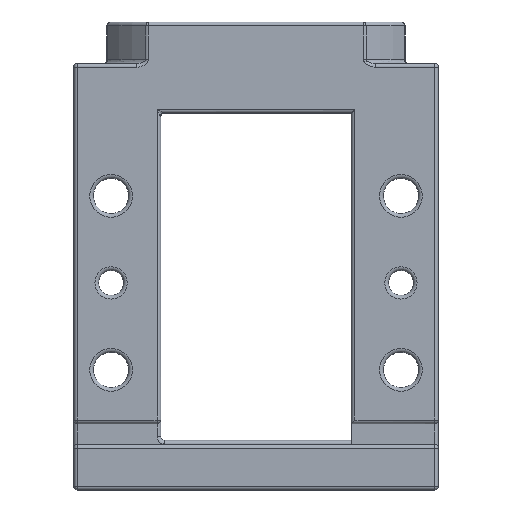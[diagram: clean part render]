
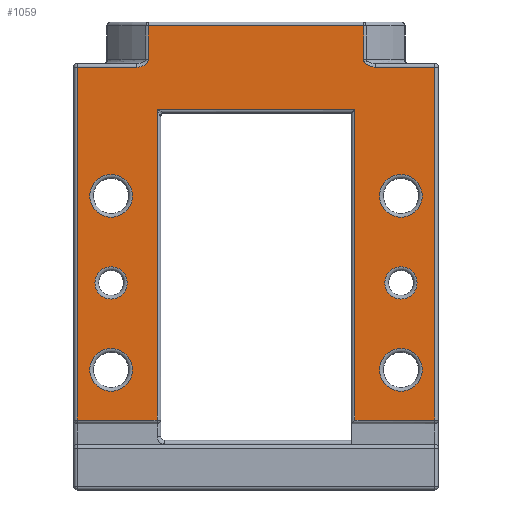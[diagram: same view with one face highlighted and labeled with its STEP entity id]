
A CAD part, front view. The second image highlights one B-rep face of the part: STEP entity #1059.
In plain terms, the highlighted planar face has unit normal (0, -1, 0).
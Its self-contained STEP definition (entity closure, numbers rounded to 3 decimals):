
#746=CIRCLE('',#6138,3.9);
#748=CIRCLE('',#6141,3.9);
#749=CIRCLE('',#6143,5.15);
#751=CIRCLE('',#6146,5.15);
#753=CIRCLE('',#6149,5.15);
#755=CIRCLE('',#6152,5.15);
#1059=ADVANCED_FACE('',(#2217,#2218,#2219,#2220,#2221,#2222,#2223),#1378,
 .F.);
#1378=PLANE('',#6256);
#1537=LINE('',#9258,#1821);
#1538=LINE('',#9276,#1822);
#1539=LINE('',#9278,#1823);
#1540=LINE('',#9280,#1824);
#1541=LINE('',#9282,#1825);
#1542=LINE('',#9284,#1826);
#1543=LINE('',#9286,#1827);
#1544=LINE('',#9288,#1828);
#1545=LINE('',#9290,#1829);
#1546=LINE('',#9292,#1830);
#1547=LINE('',#9307,#1831);
#1548=LINE('',#9309,#1832);
#1821=VECTOR('',#7070,1.);
#1822=VECTOR('',#7071,1.);
#1823=VECTOR('',#7072,1.);
#1824=VECTOR('',#7073,1.);
#1825=VECTOR('',#7074,1.);
#1826=VECTOR('',#7075,1.);
#1827=VECTOR('',#7076,1.);
#1828=VECTOR('',#7077,1.);
#1829=VECTOR('',#7078,1.);
#1830=VECTOR('',#7079,1.);
#1831=VECTOR('',#7080,1.);
#1832=VECTOR('',#7081,1.);
#2217=FACE_BOUND('',#2393,.T.);
#2218=FACE_BOUND('',#2394,.T.);
#2219=FACE_BOUND('',#2395,.T.);
#2220=FACE_BOUND('',#2396,.T.);
#2221=FACE_BOUND('',#2397,.T.);
#2222=FACE_BOUND('',#2398,.T.);
#2223=FACE_BOUND('',#2399,.T.);
#2393=EDGE_LOOP('',(#3049));
#2394=EDGE_LOOP('',(#3050));
#2395=EDGE_LOOP('',(#3051));
#2396=EDGE_LOOP('',(#3052));
#2397=EDGE_LOOP('',(#3053));
#2398=EDGE_LOOP('',(#3054));
#2399=EDGE_LOOP('',(#3055,#3056,#3057,#3058,#3059,#3060,#3061,#3062,#3063,
#3064,#3065,#3066,#3067,#3068));
#3049=ORIENTED_EDGE('',*,*,#5100,.T.);
#3050=ORIENTED_EDGE('',*,*,#5098,.T.);
#3051=ORIENTED_EDGE('',*,*,#5096,.T.);
#3052=ORIENTED_EDGE('',*,*,#5094,.T.);
#3053=ORIENTED_EDGE('',*,*,#5093,.T.);
#3054=ORIENTED_EDGE('',*,*,#5091,.T.);
#3055=ORIENTED_EDGE('',*,*,#5223,.T.);
#3056=ORIENTED_EDGE('',*,*,#5224,.T.);
#3057=ORIENTED_EDGE('',*,*,#5225,.T.);
#3058=ORIENTED_EDGE('',*,*,#5226,.T.);
#3059=ORIENTED_EDGE('',*,*,#5227,.T.);
#3060=ORIENTED_EDGE('',*,*,#5228,.T.);
#3061=ORIENTED_EDGE('',*,*,#5229,.T.);
#3062=ORIENTED_EDGE('',*,*,#5230,.T.);
#3063=ORIENTED_EDGE('',*,*,#5231,.T.);
#3064=ORIENTED_EDGE('',*,*,#5232,.T.);
#3065=ORIENTED_EDGE('',*,*,#5233,.T.);
#3066=ORIENTED_EDGE('',*,*,#5234,.T.);
#3067=ORIENTED_EDGE('',*,*,#5235,.T.);
#3068=ORIENTED_EDGE('',*,*,#5236,.T.);
#4551=VERTEX_POINT('',#8802);
#4553=VERTEX_POINT('',#8807);
#4554=VERTEX_POINT('',#8810);
#4556=VERTEX_POINT('',#8815);
#4558=VERTEX_POINT('',#8820);
#4560=VERTEX_POINT('',#8825);
#4678=VERTEX_POINT('',#9259);
#4679=VERTEX_POINT('',#9260);
#4680=VERTEX_POINT('',#9275);
#4681=VERTEX_POINT('',#9277);
#4682=VERTEX_POINT('',#9279);
#4683=VERTEX_POINT('',#9281);
#4684=VERTEX_POINT('',#9283);
#4685=VERTEX_POINT('',#9285);
#4686=VERTEX_POINT('',#9287);
#4687=VERTEX_POINT('',#9289);
#4688=VERTEX_POINT('',#9291);
#4689=VERTEX_POINT('',#9293);
#4690=VERTEX_POINT('',#9306);
#4691=VERTEX_POINT('',#9308);
#5091=EDGE_CURVE('',#4551,#4551,#746,.T.);
#5093=EDGE_CURVE('',#4553,#4553,#748,.T.);
#5094=EDGE_CURVE('',#4554,#4554,#749,.T.);
#5096=EDGE_CURVE('',#4556,#4556,#751,.T.);
#5098=EDGE_CURVE('',#4558,#4558,#753,.T.);
#5100=EDGE_CURVE('',#4560,#4560,#755,.T.);
#5223=EDGE_CURVE('',#4678,#4679,#1537,.T.);
#5224=EDGE_CURVE('',#4679,#4680,#5899,.T.);
#5225=EDGE_CURVE('',#4680,#4681,#1538,.T.);
#5226=EDGE_CURVE('',#4681,#4682,#1539,.T.);
#5227=EDGE_CURVE('',#4682,#4683,#1540,.T.);
#5228=EDGE_CURVE('',#4683,#4684,#1541,.T.);
#5229=EDGE_CURVE('',#4684,#4685,#1542,.T.);
#5230=EDGE_CURVE('',#4685,#4686,#1543,.T.);
#5231=EDGE_CURVE('',#4686,#4687,#1544,.T.);
#5232=EDGE_CURVE('',#4687,#4688,#1545,.T.);
#5233=EDGE_CURVE('',#4688,#4689,#1546,.T.);
#5234=EDGE_CURVE('',#4689,#4690,#5900,.T.);
#5235=EDGE_CURVE('',#4690,#4691,#1547,.T.);
#5236=EDGE_CURVE('',#4691,#4678,#1548,.T.);
#5899=B_SPLINE_CURVE_WITH_KNOTS('',3,(#9261,#9262,#9263,#9264,#9265,#9266,
#9267,#9268,#9269,#9270,#9271,#9272,#9273,#9274),.UNSPECIFIED.,.F.,.F.,
(4,2,2,2,2,2,4),(0.,0.125,0.25,0.375,
0.5,0.75,1.),.UNSPECIFIED.);
#5900=B_SPLINE_CURVE_WITH_KNOTS('',3,(#9294,#9295,#9296,#9297,#9298,#9299,
#9300,#9301,#9302,#9303,#9304,#9305),.UNSPECIFIED.,.F.,.F.,(4,2,2,2,2,4),
(0.,0.25,0.5,0.75,0.875,
1.),.UNSPECIFIED.);
#6138=AXIS2_PLACEMENT_3D('',#8801,#6785,#6786);
#6141=AXIS2_PLACEMENT_3D('',#8806,#6791,#6792);
#6143=AXIS2_PLACEMENT_3D('',#8809,#6795,#6796);
#6146=AXIS2_PLACEMENT_3D('',#8814,#6801,#6802);
#6149=AXIS2_PLACEMENT_3D('',#8819,#6807,#6808);
#6152=AXIS2_PLACEMENT_3D('',#8824,#6813,#6814);
#6256=AXIS2_PLACEMENT_3D('',#9310,#7082,#7083);
#6785=DIRECTION('',(0.,1.,0.));
#6786=DIRECTION('',(0.,0.,1.));
#6791=DIRECTION('',(0.,1.,0.));
#6792=DIRECTION('',(0.,0.,1.));
#6795=DIRECTION('',(0.,1.,0.));
#6796=DIRECTION('',(0.,0.,1.));
#6801=DIRECTION('',(0.,1.,0.));
#6802=DIRECTION('',(0.,0.,1.));
#6807=DIRECTION('',(0.,1.,0.));
#6808=DIRECTION('',(0.,0.,1.));
#6813=DIRECTION('',(0.,1.,0.));
#6814=DIRECTION('',(0.,0.,1.));
#7070=DIRECTION('',(0.,0.,-1.));
#7071=DIRECTION('',(-1.,0.,0.));
#7072=DIRECTION('',(0.,0.,-1.));
#7073=DIRECTION('',(1.,0.,0.));
#7074=DIRECTION('',(0.,0.,1.));
#7075=DIRECTION('',(1.,0.,0.));
#7076=DIRECTION('',(0.,0.,-1.));
#7077=DIRECTION('',(1.,0.,0.));
#7078=DIRECTION('',(0.,0.,1.));
#7079=DIRECTION('',(-1.,0.,0.));
#7080=DIRECTION('',(0.,0.,1.));
#7081=DIRECTION('',(-1.,0.,0.));
#7082=DIRECTION('',(0.,1.,0.));
#7083=DIRECTION('',(0.,0.,-1.));
#8801=CARTESIAN_POINT('',(-35.,-34.,44.));
#8802=CARTESIAN_POINT('',(-35.,-34.,47.9));
#8806=CARTESIAN_POINT('',(35.,-34.,44.));
#8807=CARTESIAN_POINT('',(35.,-34.,47.9));
#8809=CARTESIAN_POINT('',(-35.,-34.,23.));
#8810=CARTESIAN_POINT('',(-35.,-34.,28.15));
#8814=CARTESIAN_POINT('',(35.,-34.,23.));
#8815=CARTESIAN_POINT('',(35.,-34.,28.15));
#8819=CARTESIAN_POINT('',(35.,-34.,65.));
#8820=CARTESIAN_POINT('',(35.,-34.,70.15));
#8824=CARTESIAN_POINT('',(-35.,-34.,65.));
#8825=CARTESIAN_POINT('',(-35.,-34.,70.15));
#9258=CARTESIAN_POINT('',(-26.015,-34.,97.));
#9259=CARTESIAN_POINT('',(-26.015,-34.,106.1));
#9260=CARTESIAN_POINT('',(-26.015,-34.,97.9));
#9261=CARTESIAN_POINT('',(-26.015,-34.,97.9));
#9262=CARTESIAN_POINT('',(-26.015,-34.,97.745));
#9263=CARTESIAN_POINT('',(-26.047,-34.,97.596));
#9264=CARTESIAN_POINT('',(-26.166,-34.,97.31));
#9265=CARTESIAN_POINT('',(-26.249,-34.,97.181));
#9266=CARTESIAN_POINT('',(-26.448,-34.,96.945));
#9267=CARTESIAN_POINT('',(-26.56,-34.,96.842));
#9268=CARTESIAN_POINT('',(-26.804,-34.,96.658));
#9269=CARTESIAN_POINT('',(-26.936,-34.,96.577));
#9270=CARTESIAN_POINT('',(-27.341,-34.,96.367));
#9271=CARTESIAN_POINT('',(-27.631,-34.,96.267));
#9272=CARTESIAN_POINT('',(-28.228,-34.,96.133));
#9273=CARTESIAN_POINT('',(-28.531,-34.,96.1));
#9274=CARTESIAN_POINT('',(-28.837,-34.,96.1));
#9275=CARTESIAN_POINT('',(-28.837,-34.,96.1));
#9276=CARTESIAN_POINT('',(-44.,-34.,96.1));
#9277=CARTESIAN_POINT('',(-43.1,-34.,96.1));
#9278=CARTESIAN_POINT('',(-43.1,-34.,97.));
#9279=CARTESIAN_POINT('',(-43.1,-34.,10.9));
#9280=CARTESIAN_POINT('',(43.,-34.,10.9));
#9281=CARTESIAN_POINT('',(-23.9,-34.,10.9));
#9282=CARTESIAN_POINT('',(-23.9,-34.,97.));
#9283=CARTESIAN_POINT('',(-23.9,-34.,85.9));
#9284=CARTESIAN_POINT('',(23.,-34.,85.9));
#9285=CARTESIAN_POINT('',(23.9,-34.,85.9));
#9286=CARTESIAN_POINT('',(23.9,-34.,10.));
#9287=CARTESIAN_POINT('',(23.9,-34.,10.9));
#9288=CARTESIAN_POINT('',(43.,-34.,10.9));
#9289=CARTESIAN_POINT('',(43.1,-34.,10.9));
#9290=CARTESIAN_POINT('',(43.1,-34.,97.));
#9291=CARTESIAN_POINT('',(43.1,-34.,96.1));
#9292=CARTESIAN_POINT('',(26.325,-34.,96.1));
#9293=CARTESIAN_POINT('',(28.837,-34.,96.1));
#9294=CARTESIAN_POINT('',(28.837,-34.,96.1));
#9295=CARTESIAN_POINT('',(28.53,-34.,96.1));
#9296=CARTESIAN_POINT('',(28.229,-34.,96.133));
#9297=CARTESIAN_POINT('',(27.638,-34.,96.265));
#9298=CARTESIAN_POINT('',(27.344,-34.,96.366));
#9299=CARTESIAN_POINT('',(26.802,-34.,96.646));
#9300=CARTESIAN_POINT('',(26.548,-34.,96.827));
#9301=CARTESIAN_POINT('',(26.251,-34.,97.178));
#9302=CARTESIAN_POINT('',(26.166,-34.,97.309));
#9303=CARTESIAN_POINT('',(26.049,-34.,97.592));
#9304=CARTESIAN_POINT('',(26.015,-34.,97.745));
#9305=CARTESIAN_POINT('',(26.015,-34.,97.9));
#9306=CARTESIAN_POINT('',(26.015,-34.,97.9));
#9307=CARTESIAN_POINT('',(26.015,-34.,107.));
#9308=CARTESIAN_POINT('',(26.015,-34.,106.1));
#9309=CARTESIAN_POINT('',(-26.325,-34.,106.1));
#9310=CARTESIAN_POINT('',(43.,-34.,97.));
